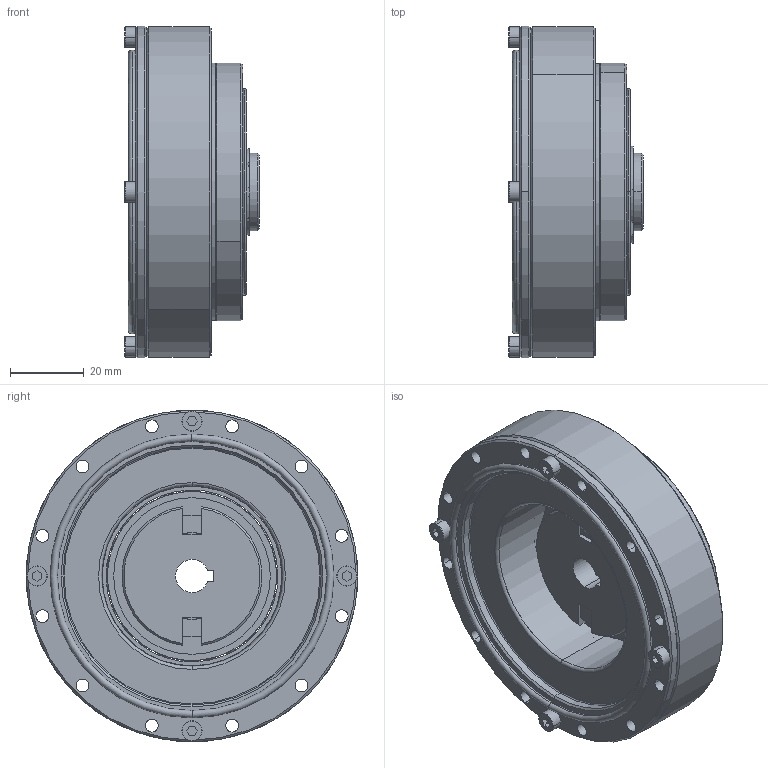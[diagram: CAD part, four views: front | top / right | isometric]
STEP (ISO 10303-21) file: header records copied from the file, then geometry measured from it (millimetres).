
FILE_DESCRIPTION (( 'STEP AP214' ), '1' );
FILE_NAME ('FHG-20-XXX-SO.STEP', '2023-01-29T05:56:41', ( '微软用户' ), ( '微软中国' ), 'SwSTEP 2.0', 'SolidWorks 2016', '' );
FILE_SCHEMA (( 'AUTOMOTIVE_DESIGN' ));
Length unit declared in the file: millimetre
Products named in the file (1): FHG-20-XXX-SO
Bounding box: 36.5 x 90 x 90 mm (x, y, z)
Volume: 108428.4 mm3; surface area: 87703.2 mm2
Topology: 48 solids, 48 shells, 1157 faces, 2908 edges, 1825 vertices
Faces by surface type: cylinder 482, plane 381, cone 132, torus 110, sphere 46, bspline 6
Entity records: 47958 total; most frequent: CARTESIAN_POINT 6794, DIRECTION 6236, ORIENTED_EDGE 5490, EDGE_CURVE 2745, AXIS2_PLACEMENT_3D 2446, VERTEX_POINT 1756, EDGE_LOOP 1361, VECTOR 1344
